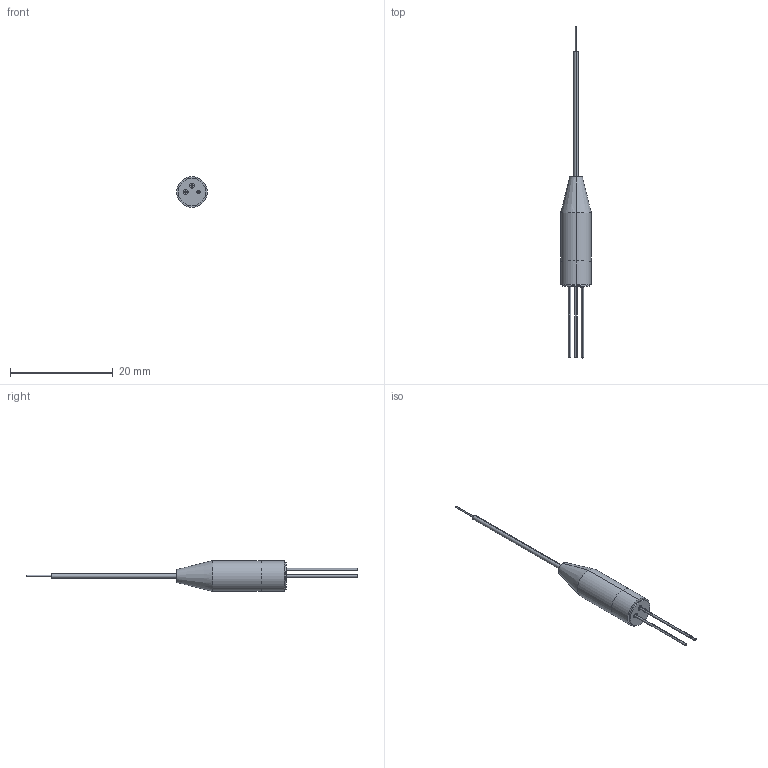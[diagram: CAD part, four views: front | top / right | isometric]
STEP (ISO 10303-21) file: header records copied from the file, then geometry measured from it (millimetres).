
FILE_DESCRIPTION (( 'STEP AP214' ), '1' );
FILE_NAME ('帣玹PD湍窪帣杶.STEP', '2024-11-22T06:12:32', ( '' ), ( '' ), 'SwSTEP 2.0', 'SolidWorks 2017', '' );
FILE_SCHEMA (( 'AUTOMOTIVE_DESIGN' ));
Length unit declared in the file: millimetre
Products named in the file (3): 帣玹PD湍窪帣杶; 窪帣杶; 帣玹PD祥湍窪帣杶
Assembly tree (2 placements, depth 2):
  帣玹PD湍窪帣杶
    帣玹PD祥湍窪帣杶
    窪帣杶
Bounding box: 6 x 64.7 x 6 mm (x, y, z)
Volume: 434.9 mm3; surface area: 896.7 mm2
Topology: 2 solids, 2 shells, 73 faces, 144 edges, 92 vertices
Faces by surface type: cylinder 40, plane 21, cone 10, torus 2
Entity records: 2355 total; most frequent: DIRECTION 390, CARTESIAN_POINT 348, ORIENTED_EDGE 288, AXIS2_PLACEMENT_3D 170, EDGE_CURVE 144, CIRCLE 92, VERTEX_POINT 92, EDGE_LOOP 92
